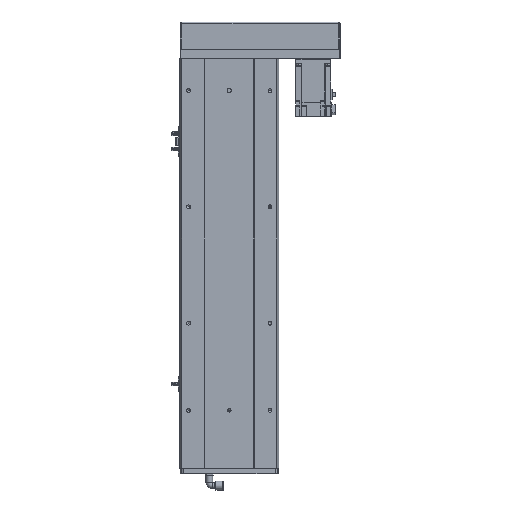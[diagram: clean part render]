
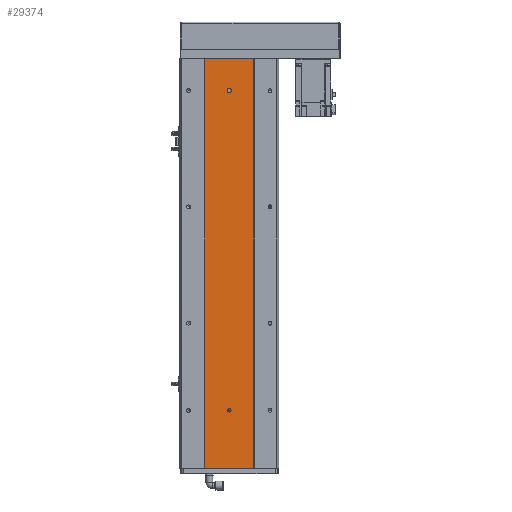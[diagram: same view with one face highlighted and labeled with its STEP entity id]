
A CAD part, top view. The second image highlights one B-rep face of the part: STEP entity #29374.
In plain terms, the highlighted planar face has unit normal (0, 0, 1).
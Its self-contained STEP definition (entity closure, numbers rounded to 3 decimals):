
#66 = CARTESIAN_POINT ( 'NONE',  ( -42., -705., 40.499 ) ) ;
#223 = LINE ( 'NONE', #14565, #15740 ) ;
#1371 = CIRCLE ( 'NONE', #37392, 3. ) ;
#1422 = ORIENTED_EDGE ( 'NONE', *, *, #27351, .F. ) ;
#1682 = CIRCLE ( 'NONE', #31124, 3. ) ;
#1818 = EDGE_LOOP ( 'NONE', ( #22234, #4865, #37124, #21821 ) ) ;
#4280 = VERTEX_POINT ( 'NONE', #22072 ) ;
#4865 = ORIENTED_EDGE ( 'NONE', *, *, #18151, .F. ) ;
#5711 = DIRECTION ( 'NONE',  ( 1., 0., 0. ) ) ;
#6147 = EDGE_CURVE ( 'NONE', #4280, #31885, #26862, .T. ) ;
#7935 = CARTESIAN_POINT ( 'NONE',  ( 0., -605., 40.499 ) ) ;
#8772 = CARTESIAN_POINT ( 'NONE',  ( -42., 0., 40.499 ) ) ;
#8883 = DIRECTION ( 'NONE',  ( 1., 0., 0. ) ) ;
#9621 = EDGE_CURVE ( 'NONE', #39441, #20010, #1371, .T. ) ;
#10798 = CARTESIAN_POINT ( 'NONE',  ( -3., -56., 40.499 ) ) ;
#10947 = DIRECTION ( 'NONE',  ( 1., 0., 0. ) ) ;
#11417 = VECTOR ( 'NONE', #11910, 1000. ) ;
#11910 = DIRECTION ( 'NONE',  ( 1., 0., 0. ) ) ;
#12222 = LINE ( 'NONE', #34106, #14667 ) ;
#13052 = AXIS2_PLACEMENT_3D ( 'NONE', #7935, #32751, #10947 ) ;
#14042 = FACE_BOUND ( 'NONE', #28361, .T. ) ;
#14565 = CARTESIAN_POINT ( 'NONE',  ( -3., -54., 40.499 ) ) ;
#14633 = ORIENTED_EDGE ( 'NONE', *, *, #9621, .F. ) ;
#14667 = VECTOR ( 'NONE', #30688, 1000. ) ;
#15148 = VERTEX_POINT ( 'NONE', #31985 ) ;
#15230 = AXIS2_PLACEMENT_3D ( 'NONE', #25994, #37872, #22356 ) ;
#15316 = ORIENTED_EDGE ( 'NONE', *, *, #21801, .F. ) ;
#15740 = VECTOR ( 'NONE', #17697, 1000. ) ;
#15968 = ORIENTED_EDGE ( 'NONE', *, *, #26800, .F. ) ;
#16192 = ORIENTED_EDGE ( 'NONE', *, *, #22589, .F. ) ;
#16452 = CARTESIAN_POINT ( 'NONE',  ( -3., -605., 40.499 ) ) ;
#16622 = VECTOR ( 'NONE', #8883, 1000. ) ;
#16851 = VERTEX_POINT ( 'NONE', #37803 ) ;
#17169 = CARTESIAN_POINT ( 'NONE',  ( 42., -705., 40.499 ) ) ;
#17185 = DIRECTION ( 'NONE',  ( 1., 0., 0. ) ) ;
#17580 = DIRECTION ( 'NONE',  ( 0., 0., 1. ) ) ;
#17657 = EDGE_CURVE ( 'NONE', #31885, #22247, #28768, .T. ) ;
#17697 = DIRECTION ( 'NONE',  ( 0., -1., 0. ) ) ;
#18128 = VERTEX_POINT ( 'NONE', #16452 ) ;
#18151 = EDGE_CURVE ( 'NONE', #4280, #28842, #20887, .T. ) ;
#18333 = DIRECTION ( 'NONE',  ( 0., 0., 1. ) ) ;
#18424 = CARTESIAN_POINT ( 'NONE',  ( 0., -54., 40.499 ) ) ;
#18606 = ORIENTED_EDGE ( 'NONE', *, *, #24617, .T. ) ;
#19209 = CIRCLE ( 'NONE', #21679, 3. ) ;
#19376 = FACE_BOUND ( 'NONE', #23668, .T. ) ;
#20010 = VERTEX_POINT ( 'NONE', #35945 ) ;
#20887 = LINE ( 'NONE', #28983, #26238 ) ;
#21323 = CARTESIAN_POINT ( 'NONE',  ( 0., -605., 40.499 ) ) ;
#21408 = DIRECTION ( 'NONE',  ( 0., 0., 1. ) ) ;
#21679 = AXIS2_PLACEMENT_3D ( 'NONE', #21323, #18333, #5711 ) ;
#21801 = EDGE_CURVE ( 'NONE', #18128, #24415, #22630, .T. ) ;
#21821 = ORIENTED_EDGE ( 'NONE', *, *, #17657, .T. ) ;
#22072 = CARTESIAN_POINT ( 'NONE',  ( -42., -705., 40.499 ) ) ;
#22234 = ORIENTED_EDGE ( 'NONE', *, *, #27322, .F. ) ;
#22247 = VERTEX_POINT ( 'NONE', #31344 ) ;
#22356 = DIRECTION ( 'NONE',  ( 1., 0., 0. ) ) ;
#22589 = EDGE_CURVE ( 'NONE', #15148, #39441, #223, .T. ) ;
#22630 = CIRCLE ( 'NONE', #13052, 3. ) ;
#22884 = PLANE ( 'NONE',  #15230 ) ;
#22936 = CARTESIAN_POINT ( 'NONE',  ( -42., 0., 40.499 ) ) ;
#23668 = EDGE_LOOP ( 'NONE', ( #1422, #18606, #14633, #16192 ) ) ;
#23865 = DIRECTION ( 'NONE',  ( 0., 1., 0. ) ) ;
#24415 = VERTEX_POINT ( 'NONE', #30561 ) ;
#24617 = EDGE_CURVE ( 'NONE', #16851, #20010, #12222, .T. ) ;
#25569 = DIRECTION ( 'NONE',  ( 0., 1., 0. ) ) ;
#25994 = CARTESIAN_POINT ( 'NONE',  ( -42., -705., 40.499 ) ) ;
#26002 = LINE ( 'NONE', #8772, #11417 ) ;
#26238 = VECTOR ( 'NONE', #25569, 1000. ) ;
#26800 = EDGE_CURVE ( 'NONE', #24415, #18128, #19209, .T. ) ;
#26862 = LINE ( 'NONE', #66, #16622 ) ;
#27322 = EDGE_CURVE ( 'NONE', #28842, #22247, #26002, .T. ) ;
#27351 = EDGE_CURVE ( 'NONE', #16851, #15148, #1682, .T. ) ;
#28361 = EDGE_LOOP ( 'NONE', ( #15968, #15316 ) ) ;
#28768 = LINE ( 'NONE', #17169, #39018 ) ;
#28842 = VERTEX_POINT ( 'NONE', #22936 ) ;
#28983 = CARTESIAN_POINT ( 'NONE',  ( -42., -705., 40.499 ) ) ;
#29374 = ADVANCED_FACE ( 'NONE', ( #14042, #19376, #32058 ), #22884, .T. ) ;
#30561 = CARTESIAN_POINT ( 'NONE',  ( 3., -605., 40.499 ) ) ;
#30688 = DIRECTION ( 'NONE',  ( 0., -1., 0. ) ) ;
#31124 = AXIS2_PLACEMENT_3D ( 'NONE', #18424, #21408, #33987 ) ;
#31344 = CARTESIAN_POINT ( 'NONE',  ( 42., 0., 40.499 ) ) ;
#31885 = VERTEX_POINT ( 'NONE', #37503 ) ;
#31985 = CARTESIAN_POINT ( 'NONE',  ( -3., -54., 40.499 ) ) ;
#32058 = FACE_OUTER_BOUND ( 'NONE', #1818, .T. ) ;
#32751 = DIRECTION ( 'NONE',  ( 0., 0., 1. ) ) ;
#33987 = DIRECTION ( 'NONE',  ( 1., 0., 0. ) ) ;
#34106 = CARTESIAN_POINT ( 'NONE',  ( 3., -54., 40.499 ) ) ;
#35945 = CARTESIAN_POINT ( 'NONE',  ( 3., -56., 40.499 ) ) ;
#36135 = CARTESIAN_POINT ( 'NONE',  ( 0., -56., 40.499 ) ) ;
#37124 = ORIENTED_EDGE ( 'NONE', *, *, #6147, .T. ) ;
#37392 = AXIS2_PLACEMENT_3D ( 'NONE', #36135, #17580, #17185 ) ;
#37503 = CARTESIAN_POINT ( 'NONE',  ( 42., -705., 40.499 ) ) ;
#37803 = CARTESIAN_POINT ( 'NONE',  ( 3., -54., 40.499 ) ) ;
#37872 = DIRECTION ( 'NONE',  ( 0., 0., 1. ) ) ;
#39018 = VECTOR ( 'NONE', #23865, 1000. ) ;
#39441 = VERTEX_POINT ( 'NONE', #10798 ) ;
